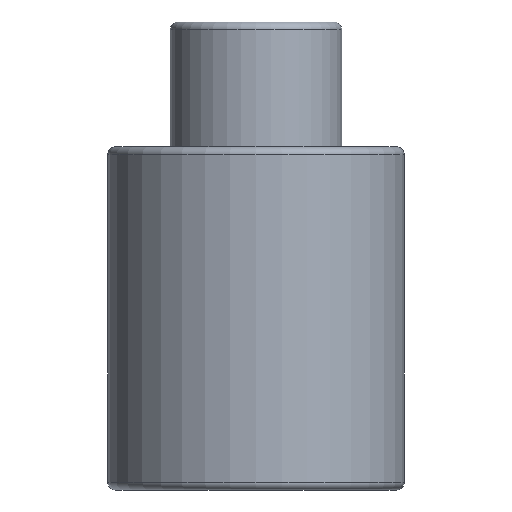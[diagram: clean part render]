
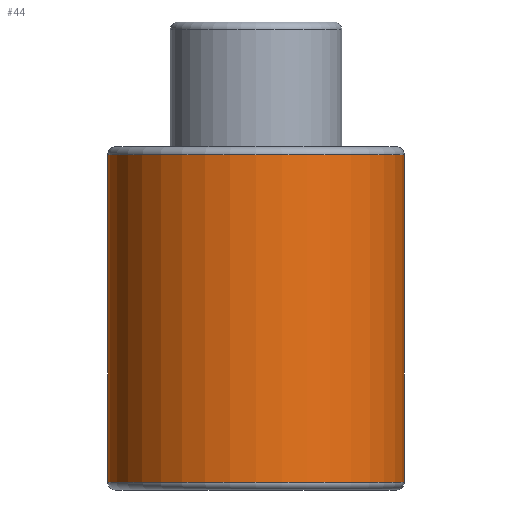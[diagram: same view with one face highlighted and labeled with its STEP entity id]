
A CAD part, front view. The second image highlights one B-rep face of the part: STEP entity #44.
In plain terms, the highlighted cylindrical face has radius 19 mm (diameter 38 mm), a full revolution.
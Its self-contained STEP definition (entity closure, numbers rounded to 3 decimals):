
#44=ADVANCED_FACE('',(#60,#61),#56,.T.);
#56=CYLINDRICAL_SURFACE('',#166,19.);
#60=FACE_BOUND('',#84,.T.);
#61=FACE_BOUND('',#85,.T.);
#84=EDGE_LOOP('',(#106));
#85=EDGE_LOOP('',(#107));
#106=ORIENTED_EDGE('',*,*,#141,.F.);
#107=ORIENTED_EDGE('',*,*,#142,.T.);
#128=VERTEX_POINT('',#237);
#129=VERTEX_POINT('',#239);
#141=EDGE_CURVE('',#128,#128,#152,.T.);
#142=EDGE_CURVE('',#129,#129,#153,.T.);
#152=CIRCLE('',#164,19.);
#153=CIRCLE('',#165,19.);
#164=AXIS2_PLACEMENT_3D('',#236,#189,#190);
#165=AXIS2_PLACEMENT_3D('',#238,#191,#192);
#166=AXIS2_PLACEMENT_3D('',#240,#193,#194);
#189=DIRECTION('',(0.,0.,-1.));
#190=DIRECTION('',(-1.,0.,0.));
#191=DIRECTION('',(0.,0.,-1.));
#192=DIRECTION('',(-1.,0.,0.));
#193=DIRECTION('',(0.,0.,-1.));
#194=DIRECTION('',(-1.,0.,0.));
#236=CARTESIAN_POINT('',(0.,0.,1.));
#237=CARTESIAN_POINT('',(-19.,0.,1.));
#238=CARTESIAN_POINT('',(0.,0.,43.));
#239=CARTESIAN_POINT('',(-19.,0.,43.));
#240=CARTESIAN_POINT('',(0.,0.,0.));
